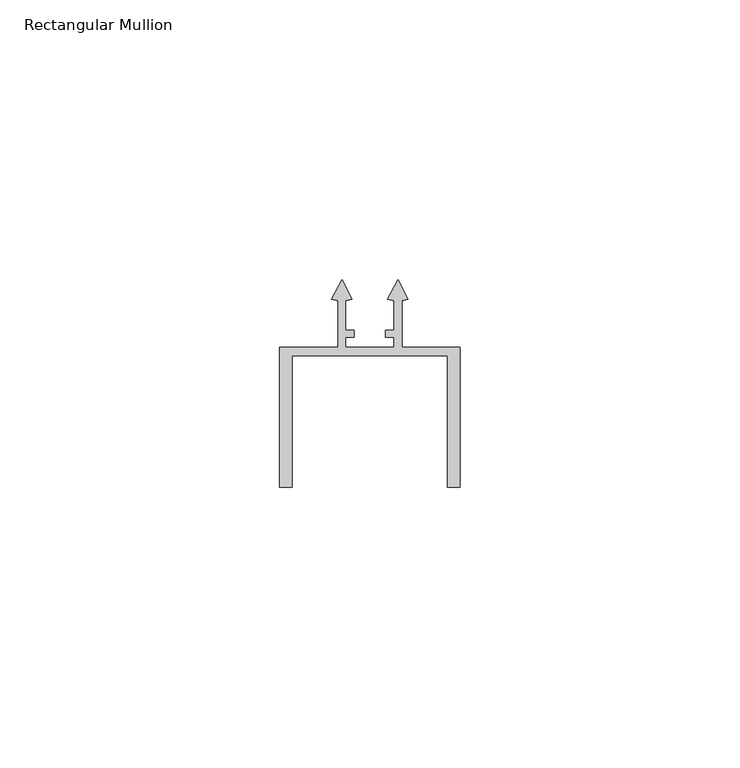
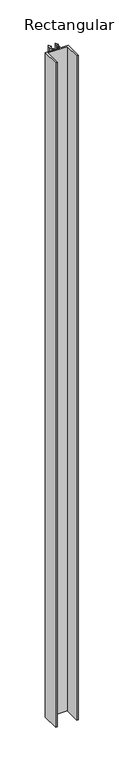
"""IFC4 building model written with IfcOpenShell, lengths in millimetres: member geometry, Rectangular Mullion : Renson_Linarte_LA-E25-02."""

from ifc_helpers import new_model, si_unit, frame, origin, place, context, project, spatial, polyline, outline, extrude, source, transform, mapped, element, save


def rectangular_mullion_e8a25713(model_context):
    return source(origin(), model_context, "Body", "SweptSolid", [
        extrude(outline(polyline([(-30.0, -61.4999527), (-32.2, -61.4999527), (-32.2, -36.4999527), (-21.801979, -36.4999527), (-21.801979, -28.1820216), (-22.9564588, -27.9748104), (-21.1008012, -24.5019004), (-19.2435095, -27.9763841), (-20.4019788, -28.1769996), (-20.4019788, -33.4979124), (-18.8927983, -33.4979124), (-18.8927983, -34.7), (-20.4019795, -34.7), (-20.4019795, -36.4999527), (-11.7980205, -36.4999527), (-11.7980205, -34.6999527), (-13.3072007, -34.6999527), (-13.3072007, -33.497865), (-11.7980203, -33.497865), (-11.7980203, -28.1769996), (-12.9564385, -27.976393), (-11.0999323, -24.5018948), (-9.2434843, -27.9748003), (-10.3980205, -28.1820216), (-10.3980205, -36.4999527), (0.0, -36.4999527), (0.0, -61.4999527), (-2.2, -61.4999527), (-2.2, -37.9999527), (-30.0, -37.9999527), (-30.0, -61.4999527)])), frame((0.0, 0.0, -1000.0), z_axis=(0.0, 0.0, 1.0), x_axis=(1.0, 0.0, 0.0)), (0.0, 0.0, 1.0), 1000.0),
    ])


if __name__ == "__main__":
    model = new_model("IFC4")
    model_context = context("Model", 3, world=origin())
    ifc_project = project(units=[si_unit("LENGTHUNIT", "METRE", prefix="MILLI")], contexts=[model_context])
    site = spatial("IfcSite", under=ifc_project)
    building = spatial("IfcBuilding", under=site)
    placement = place(None, origin())
    rectangular_mullion_shape = rectangular_mullion_e8a25713(model_context)
    element("IfcMember", 1, ObjectType="Rectangular Mullion : Renson_Linarte_LA-E25-02", at=placement, inside=building, context=model_context, shape_type="MappedRepresentation", body=[
        mapped(rectangular_mullion_shape, transform((0.0, 0.0, 0.0), x_axis=(1.0, 0.0, 0.0), y_axis=(0.0, 1.0, 0.0), z_axis=(0.0, 0.0, 1.0))),
    ])
    save(model, "model.ifc")
